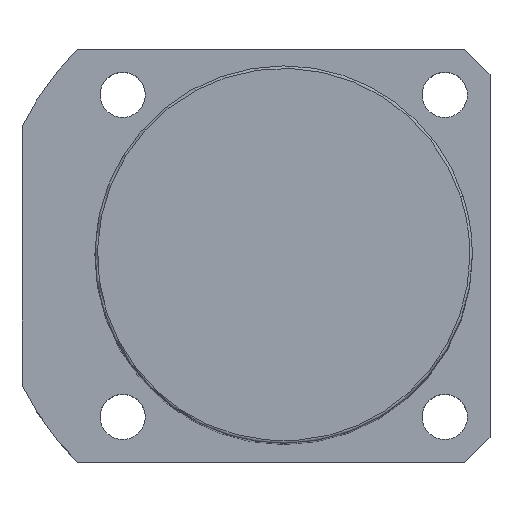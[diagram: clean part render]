
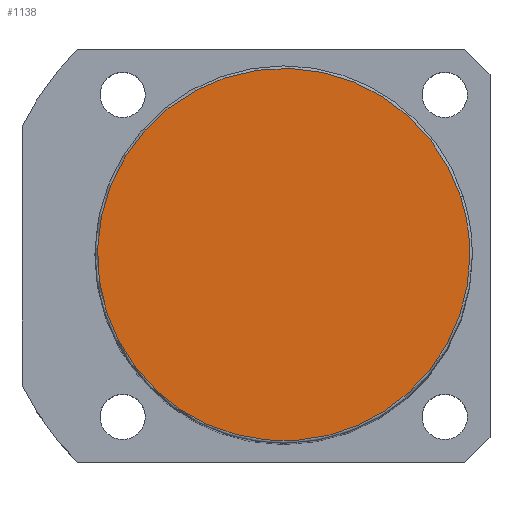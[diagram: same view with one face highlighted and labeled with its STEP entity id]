
A CAD part, top view. The second image highlights one B-rep face of the part: STEP entity #1138.
In plain terms, the highlighted planar face has unit normal (0, 0, 1).
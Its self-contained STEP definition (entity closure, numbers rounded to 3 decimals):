
#1071=CARTESIAN_POINT('',(35.189,11.434,163.0));
#1072=VERTEX_POINT('',#1071);
#1090=CARTESIAN_POINT('',(-35.189,-11.434,163.0));
#1091=VERTEX_POINT('',#1090);
#1099=CARTESIAN_POINT('',(0.0,0.0,163.0));
#1100=DIRECTION('',(0.0,0.0,1.0));
#1101=DIRECTION('',(1.0,0.0,0.0));
#1102=AXIS2_PLACEMENT_3D('',#1099,#1100,#1101);
#1103=CIRCLE('',#1102,37.0);
#1104=EDGE_CURVE('no 1699',#1072,#1091,#1103,.T.);
#1114=CARTESIAN_POINT('',(37.0,0.0,163.0));
#1115=VERTEX_POINT('',#1114);
#1116=CARTESIAN_POINT('',(0.0,0.0,163.0));
#1117=DIRECTION('',(0.0,0.0,1.0));
#1118=DIRECTION('',(1.0,0.0,0.0));
#1119=AXIS2_PLACEMENT_3D('',#1116,#1117,#1118);
#1120=CIRCLE('',#1119,37.0);
#1121=EDGE_CURVE('no 1708',#1115,#1072,#1120,.T.);
#1122=ORIENTED_EDGE('',*,*,#1121,.T.);
#1123=ORIENTED_EDGE('',*,*,#1104,.T.);
#1124=CARTESIAN_POINT('',(0.0,0.0,163.0));
#1125=DIRECTION('',(0.0,0.0,1.0));
#1126=DIRECTION('',(1.0,0.0,0.0));
#1127=AXIS2_PLACEMENT_3D('',#1124,#1125,#1126);
#1128=CIRCLE('',#1127,37.0);
#1129=EDGE_CURVE('no 1714',#1091,#1115,#1128,.T.);
#1130=ORIENTED_EDGE('',*,*,#1129,.T.);
#1131=EDGE_LOOP('',(#1122,#1123,#1130));
#1132=FACE_OUTER_BOUND('',#1131,.T.);
#1133=CARTESIAN_POINT('',(0.0,0.0,163.0));
#1134=DIRECTION('',(0.0,0.0,1.0));
#1135=DIRECTION('',(1.0,0.0,0.0));
#1136=AXIS2_PLACEMENT_3D('',#1133,#1134,#1135);
#1137=PLANE('',#1136);
#1138=ADVANCED_FACE('no 1701',(#1132),#1137,.T.);
